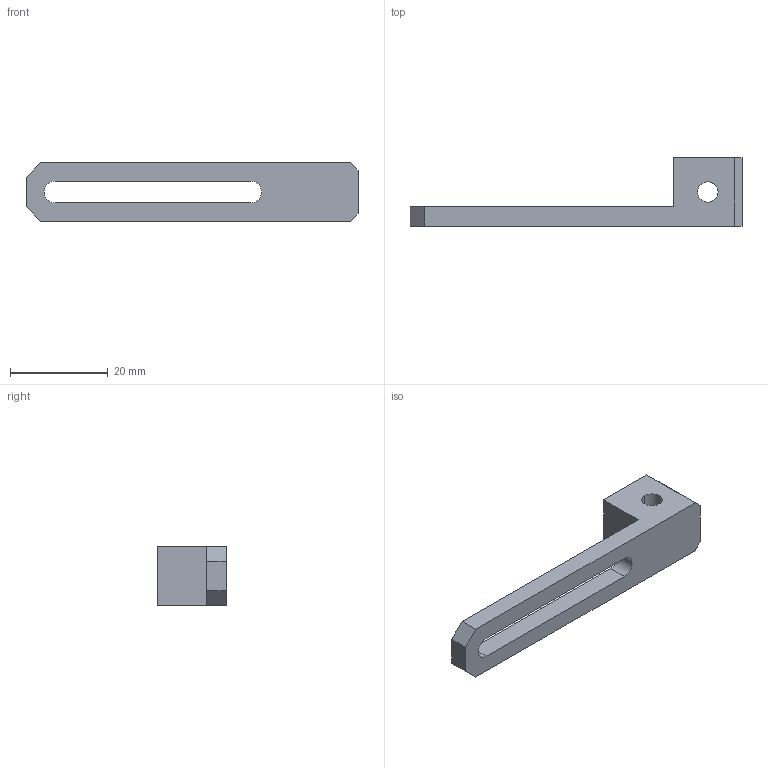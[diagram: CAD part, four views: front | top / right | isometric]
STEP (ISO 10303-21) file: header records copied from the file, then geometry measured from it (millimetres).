
FILE_DESCRIPTION (( 'STEP AP214' ), '1' );
FILE_NAME ('SCF2-40M5.STEP', '2019-11-06T07:49:35', ( '微软用户' ), ( '微软中国' ), 'SwSTEP 2.0', 'SolidWorks 2016', '' );
FILE_SCHEMA (( 'AUTOMOTIVE_DESIGN' ));
Length unit declared in the file: millimetre
Products named in the file (1): SCF2-40M5
Bounding box: 68 x 14 x 12 mm (x, y, z)
Volume: 3804.2 mm3; surface area: 2939.3 mm2
Topology: 1 solids, 1 shells, 26 faces, 69 edges, 44 vertices
Faces by surface type: plane 15, cylinder 11
Entity records: 845 total; most frequent: CARTESIAN_POINT 164, ORIENTED_EDGE 138, DIRECTION 129, EDGE_CURVE 69, LINE 47, VECTOR 47, VERTEX_POINT 44, AXIS2_PLACEMENT_3D 41
